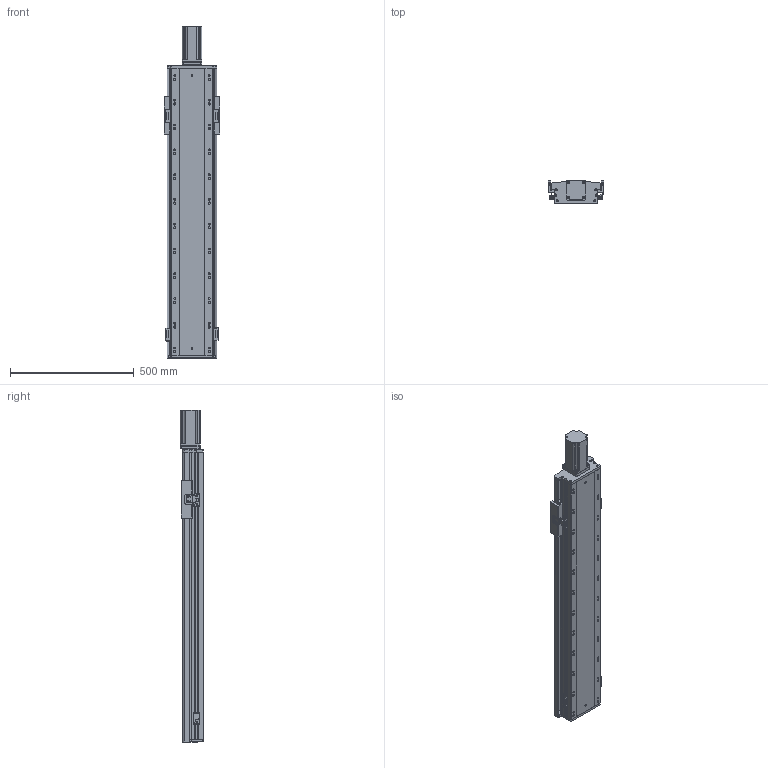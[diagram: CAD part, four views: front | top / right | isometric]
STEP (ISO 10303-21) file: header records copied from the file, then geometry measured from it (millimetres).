
FILE_DESCRIPTION (( 'STEP AP203' ), '1' );
FILE_NAME ('RY170FB-L2510-300-MK.SLDASM_850.step', '2021-02-22T08:56:49', ( '盈信电脑' ), ( '东莞市道滘镇水果街19号' ), 'SwSTEP 2.0', 'SolidWorks 2012', '' );
FILE_SCHEMA (( 'CONFIG_CONTROL_DESIGN' ));
Length unit declared in the file: millimetre
Products named in the file (16): RY140FB-覜茼え; RY170FB-L2510-300-MK.SLDASM_850; RY140-674嫖萇耀輸; RY140FB-674嫖萇覜茼え; RY140直线电机感应器674光电安装座; 覜茼ん674; 750W萇儂梓袧蛌諉啣; 侂狟750W萇儂ㄗ80遺ㄘ; RY170FB-铝滑块(25丝杆）; RY170FB-300奻裔_850; 滅袉蝶18-10; 滅袉蝶18-28; RY170FB-綴裔啣; RY170FB-300倰第菁釱-MK_850; RY170FB-ヶ裔啣
Assembly tree (20 placements, depth 3):
  RY170FB-L2510-300-MK.SLDASM_850
    RY170FB-300倰第菁釱-MK_850
    RY170FB-綴裔啣
    RY170FB-ヶ裔啣
    滅袉蝶18-28
    滅袉蝶18-10
    RY170FB-铝滑块(25丝杆）
    RY170FB-300奻裔_850
    750W萇儂梓袧蛌諉啣
    侂狟750W萇儂ㄗ80遺ㄘ
    RY140-674嫖萇耀輸  x2
      覜茼ん674
      RY140直线电机感应器674光电安装座
    RY140FB-674嫖萇覜茼え
    RY140-674嫖萇耀輸  x2
      覜茼ん674
      RY140直线电机感应器674光电安装座
    RY140FB-覜茼え
Bounding box: 225 x 93.2 x 1339.5 mm (x, y, z)
Volume: 7169976.8 mm3; surface area: 2037244.3 mm2
Topology: 21 solids, 21 shells, 1707 faces, 4981 edges, 3200 vertices
Faces by surface type: cylinder 822, plane 761, cone 124
Entity records: 45685 total; most frequent: CARTESIAN_POINT 10386, ORIENTED_EDGE 7166, DIRECTION 6941, EDGE_CURVE 3583, AXIS2_PLACEMENT_3D 2535, VERTEX_POINT 2354, LINE 1871, VECTOR 1871
